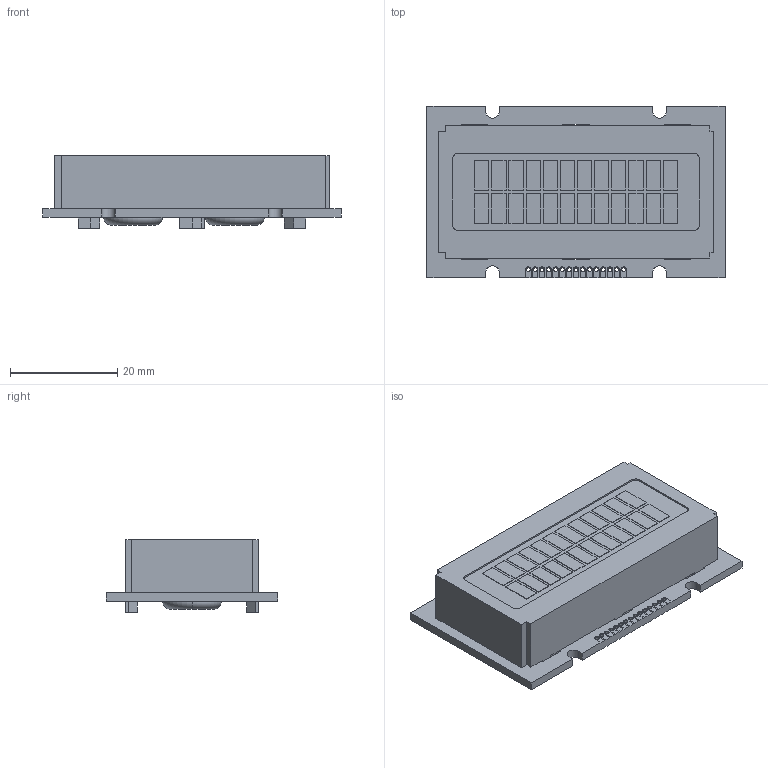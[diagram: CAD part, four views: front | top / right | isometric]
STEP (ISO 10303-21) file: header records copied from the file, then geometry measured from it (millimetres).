
FILE_DESCRIPTION (( 'STEP AP214' ), '1' );
FILE_NAME ('NHD-0212WH-ATMI-JT#.STEP', '2018-03-16T13:27:44', ( '' ), ( '' ), 'SwSTEP 2.0', 'SolidWorks 2018', '' );
FILE_SCHEMA (( 'AUTOMOTIVE_DESIGN' ));
Length unit declared in the file: millimetre
Products named in the file (1): NHD-0212WH-ATMI-JT#
Bounding box: 55.7 x 32 x 13.6 mm (x, y, z)
Volume: 15405.4 mm3; surface area: 5743.2 mm2
Topology: 1 solids, 1 shells, 428 faces, 1182 edges, 778 vertices
Faces by surface type: plane 332, cylinder 92, torus 4
Entity records: 18328 total; most frequent: CARTESIAN_POINT 2389, ORIENTED_EDGE 2364, DIRECTION 2236, EDGE_CURVE 1182, VECTOR 986, LINE 986, VERTEX_POINT 778, AXIS2_PLACEMENT_3D 625
